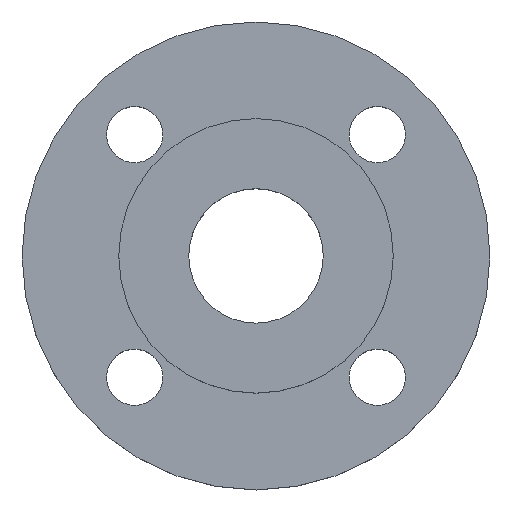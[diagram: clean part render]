
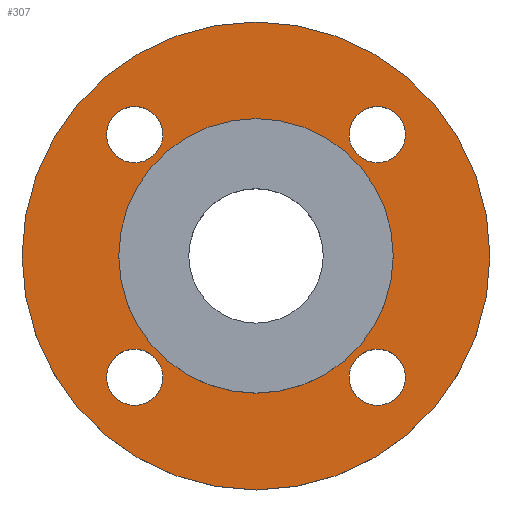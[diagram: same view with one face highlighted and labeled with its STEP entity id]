
A CAD part, top view. The second image highlights one B-rep face of the part: STEP entity #307.
In plain terms, the highlighted planar face has unit normal (0, 0, 1).
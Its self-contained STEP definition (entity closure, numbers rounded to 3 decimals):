
#8 = EDGE_CURVE ( 'NONE', #428, #446, #405, .T. ) ;
#25 = CARTESIAN_POINT ( 'NONE',  ( 47.891, 38.891, 0. ) ) ;
#34 = AXIS2_PLACEMENT_3D ( 'NONE', #831, #832, #834 ) ;
#38 = CARTESIAN_POINT ( 'NONE',  ( 29.891, 38.891, 0. ) ) ;
#39 = CARTESIAN_POINT ( 'NONE',  ( 38.5, 0., 0. ) ) ;
#53 = AXIS2_PLACEMENT_3D ( 'NONE', #890, #892, #893 ) ;
#72 = CARTESIAN_POINT ( 'NONE',  ( -29.891, -38.891, 0. ) ) ;
#89 = FACE_BOUND ( 'NONE', #708, .T. ) ;
#90 = FACE_BOUND ( 'NONE', #667, .T. ) ;
#91 = FACE_BOUND ( 'NONE', #651, .T. ) ;
#92 = FACE_OUTER_BOUND ( 'NONE', #422, .T. ) ;
#95 = PLANE ( 'NONE',  #296 ) ;
#98 = CARTESIAN_POINT ( 'NONE',  ( 0., 0., 0. ) ) ;
#104 = DIRECTION ( 'NONE',  ( 0., 0., 1. ) ) ;
#106 = DIRECTION ( 'NONE',  ( 1., 0., 0. ) ) ;
#114 = CARTESIAN_POINT ( 'NONE',  ( -38.891, -38.891, 0. ) ) ;
#119 = DIRECTION ( 'NONE',  ( 0., 0., -1. ) ) ;
#124 = EDGE_CURVE ( 'NONE', #664, #555, #157, .T. ) ;
#127 = DIRECTION ( 'NONE',  ( -1., 0., 0. ) ) ;
#157 = CIRCLE ( 'NONE', #348, 9. ) ;
#160 = EDGE_CURVE ( 'NONE', #555, #664, #163, .T. ) ;
#163 = CIRCLE ( 'NONE', #313, 9. ) ;
#179 = DIRECTION ( 'NONE',  ( -1., 0., 0. ) ) ;
#180 = DIRECTION ( 'NONE',  ( 0., 0., -1. ) ) ;
#182 = CARTESIAN_POINT ( 'NONE',  ( 0., 0., 0. ) ) ;
#196 = AXIS2_PLACEMENT_3D ( 'NONE', #872, #873, #874 ) ;
#211 = EDGE_CURVE ( 'NONE', #558, #427, #322, .T. ) ;
#215 = AXIS2_PLACEMENT_3D ( 'NONE', #395, #180, #179 ) ;
#227 = CARTESIAN_POINT ( 'NONE',  ( -38.891, 38.891, 0. ) ) ;
#232 = AXIS2_PLACEMENT_3D ( 'NONE', #227, #358, #356 ) ;
#233 = CIRCLE ( 'NONE', #659, 75. ) ;
#245 = CARTESIAN_POINT ( 'NONE',  ( 75., 0., 0. ) ) ;
#255 = AXIS2_PLACEMENT_3D ( 'NONE', #182, #392, #912 ) ;
#258 = EDGE_CURVE ( 'NONE', #446, #428, #819, .T. ) ;
#273 = EDGE_CURVE ( 'NONE', #424, #670, #814, .T. ) ;
#288 = CIRCLE ( 'NONE', #292, 9. ) ;
#292 = AXIS2_PLACEMENT_3D ( 'NONE', #114, #119, #127 ) ;
#296 = AXIS2_PLACEMENT_3D ( 'NONE', #98, #104, #106 ) ;
#298 = EDGE_CURVE ( 'NONE', #677, #423, #591, .T. ) ;
#300 = CARTESIAN_POINT ( 'NONE',  ( 47.891, -38.891, 0. ) ) ;
#307 = ADVANCED_FACE ( 'NONE', ( #328, #334, #89, #90, #91, #92 ), #95, .T. ) ;
#312 = CIRCLE ( 'NONE', #215, 9. ) ;
#313 = AXIS2_PLACEMENT_3D ( 'NONE', #815, #816, #818 ) ;
#314 = AXIS2_PLACEMENT_3D ( 'NONE', #741, #743, #746 ) ;
#316 = EDGE_CURVE ( 'NONE', #670, #424, #288, .T. ) ;
#322 = CIRCLE ( 'NONE', #34, 38.5 ) ;
#325 = CIRCLE ( 'NONE', #232, 9. ) ;
#328 = FACE_BOUND ( 'NONE', #653, .T. ) ;
#334 = FACE_BOUND ( 'NONE', #600, .T. ) ;
#348 = AXIS2_PLACEMENT_3D ( 'NONE', #810, #811, #812 ) ;
#356 = DIRECTION ( 'NONE',  ( -1., 0., 0. ) ) ;
#358 = DIRECTION ( 'NONE',  ( 0., 0., -1. ) ) ;
#392 = DIRECTION ( 'NONE',  ( 0., 0., -1. ) ) ;
#395 = CARTESIAN_POINT ( 'NONE',  ( -38.891, 38.891, 0. ) ) ;
#405 = CIRCLE ( 'NONE', #314, 9. ) ;
#422 = EDGE_LOOP ( 'NONE', ( #499, #500 ) ) ;
#423 = VERTEX_POINT ( 'NONE', #245 ) ;
#424 = VERTEX_POINT ( 'NONE', #72 ) ;
#427 = VERTEX_POINT ( 'NONE', #39 ) ;
#428 = VERTEX_POINT ( 'NONE', #38 ) ;
#446 = VERTEX_POINT ( 'NONE', #25 ) ;
#483 = ORIENTED_EDGE ( 'NONE', *, *, #160, .T. ) ;
#485 = ORIENTED_EDGE ( 'NONE', *, *, #273, .T. ) ;
#486 = ORIENTED_EDGE ( 'NONE', *, *, #316, .T. ) ;
#487 = ORIENTED_EDGE ( 'NONE', *, *, #538, .T. ) ;
#488 = ORIENTED_EDGE ( 'NONE', *, *, #856, .T. ) ;
#490 = ORIENTED_EDGE ( 'NONE', *, *, #258, .T. ) ;
#492 = ORIENTED_EDGE ( 'NONE', *, *, #8, .T. ) ;
#494 = ORIENTED_EDGE ( 'NONE', *, *, #542, .T. ) ;
#495 = ORIENTED_EDGE ( 'NONE', *, *, #211, .T. ) ;
#499 = ORIENTED_EDGE ( 'NONE', *, *, #843, .T. ) ;
#500 = ORIENTED_EDGE ( 'NONE', *, *, #298, .T. ) ;
#502 = ORIENTED_EDGE ( 'NONE', *, *, #124, .T. ) ;
#510 = CARTESIAN_POINT ( 'NONE',  ( -47.891, -38.891, 0. ) ) ;
#538 = EDGE_CURVE ( 'NONE', #648, #652, #312, .T. ) ;
#542 = EDGE_CURVE ( 'NONE', #427, #558, #678, .T. ) ;
#555 = VERTEX_POINT ( 'NONE', #916 ) ;
#558 = VERTEX_POINT ( 'NONE', #917 ) ;
#591 = CIRCLE ( 'NONE', #598, 75. ) ;
#598 = AXIS2_PLACEMENT_3D ( 'NONE', #905, #906, #910 ) ;
#600 = EDGE_LOOP ( 'NONE', ( #485, #486 ) ) ;
#648 = VERTEX_POINT ( 'NONE', #687 ) ;
#651 = EDGE_LOOP ( 'NONE', ( #494, #495 ) ) ;
#652 = VERTEX_POINT ( 'NONE', #795 ) ;
#653 = EDGE_LOOP ( 'NONE', ( #502, #483 ) ) ;
#659 = AXIS2_PLACEMENT_3D ( 'NONE', #742, #748, #745 ) ;
#664 = VERTEX_POINT ( 'NONE', #300 ) ;
#667 = EDGE_LOOP ( 'NONE', ( #490, #492 ) ) ;
#670 = VERTEX_POINT ( 'NONE', #510 ) ;
#677 = VERTEX_POINT ( 'NONE', #689 ) ;
#678 = CIRCLE ( 'NONE', #255, 38.5 ) ;
#687 = CARTESIAN_POINT ( 'NONE',  ( -29.891, 38.891, 0. ) ) ;
#689 = CARTESIAN_POINT ( 'NONE',  ( -75., 0., 0. ) ) ;
#708 = EDGE_LOOP ( 'NONE', ( #487, #488 ) ) ;
#741 = CARTESIAN_POINT ( 'NONE',  ( 38.891, 38.891, 0. ) ) ;
#742 = CARTESIAN_POINT ( 'NONE',  ( 0., 0., 0. ) ) ;
#743 = DIRECTION ( 'NONE',  ( 0., 0., -1. ) ) ;
#745 = DIRECTION ( 'NONE',  ( 1., 0., 0. ) ) ;
#746 = DIRECTION ( 'NONE',  ( -1., 0., 0. ) ) ;
#748 = DIRECTION ( 'NONE',  ( 0., 0., 1. ) ) ;
#795 = CARTESIAN_POINT ( 'NONE',  ( -47.891, 38.891, 0. ) ) ;
#810 = CARTESIAN_POINT ( 'NONE',  ( 38.891, -38.891, 0. ) ) ;
#811 = DIRECTION ( 'NONE',  ( 0., 0., -1. ) ) ;
#812 = DIRECTION ( 'NONE',  ( -1., 0., 0. ) ) ;
#814 = CIRCLE ( 'NONE', #53, 9. ) ;
#815 = CARTESIAN_POINT ( 'NONE',  ( 38.891, -38.891, 0. ) ) ;
#816 = DIRECTION ( 'NONE',  ( 0., 0., -1. ) ) ;
#818 = DIRECTION ( 'NONE',  ( -1., 0., 0. ) ) ;
#819 = CIRCLE ( 'NONE', #196, 9. ) ;
#831 = CARTESIAN_POINT ( 'NONE',  ( 0., 0., 0. ) ) ;
#832 = DIRECTION ( 'NONE',  ( 0., 0., -1. ) ) ;
#834 = DIRECTION ( 'NONE',  ( -1., 0., 0. ) ) ;
#843 = EDGE_CURVE ( 'NONE', #423, #677, #233, .T. ) ;
#856 = EDGE_CURVE ( 'NONE', #652, #648, #325, .T. ) ;
#872 = CARTESIAN_POINT ( 'NONE',  ( 38.891, 38.891, 0. ) ) ;
#873 = DIRECTION ( 'NONE',  ( 0., 0., -1. ) ) ;
#874 = DIRECTION ( 'NONE',  ( -1., 0., 0. ) ) ;
#890 = CARTESIAN_POINT ( 'NONE',  ( -38.891, -38.891, 0. ) ) ;
#892 = DIRECTION ( 'NONE',  ( 0., 0., -1. ) ) ;
#893 = DIRECTION ( 'NONE',  ( -1., 0., 0. ) ) ;
#905 = CARTESIAN_POINT ( 'NONE',  ( 0., 0., 0. ) ) ;
#906 = DIRECTION ( 'NONE',  ( 0., 0., 1. ) ) ;
#910 = DIRECTION ( 'NONE',  ( 1., 0., 0. ) ) ;
#912 = DIRECTION ( 'NONE',  ( -1., 0., 0. ) ) ;
#916 = CARTESIAN_POINT ( 'NONE',  ( 29.891, -38.891, 0. ) ) ;
#917 = CARTESIAN_POINT ( 'NONE',  ( -38.5, 0., 0. ) ) ;
